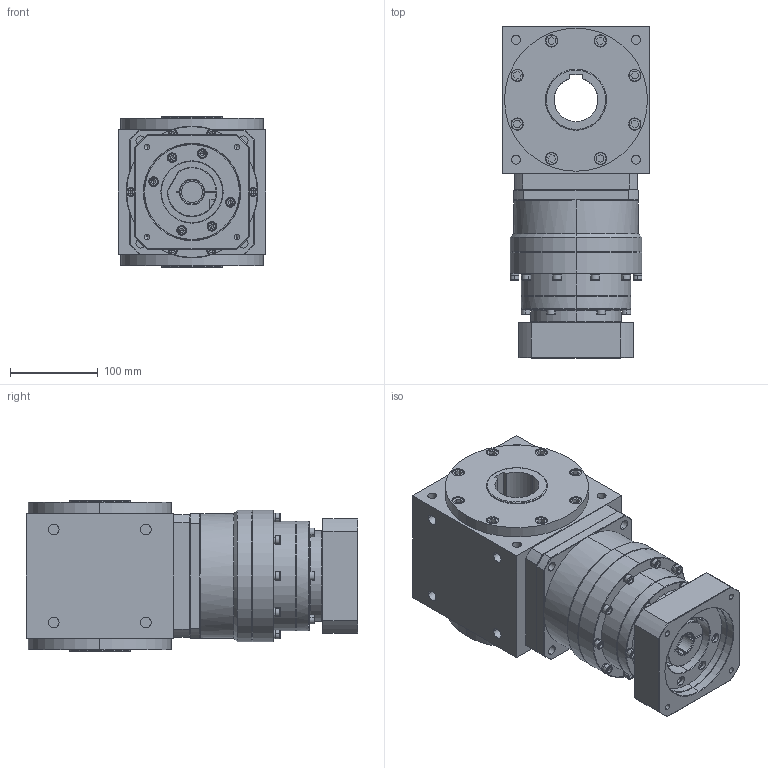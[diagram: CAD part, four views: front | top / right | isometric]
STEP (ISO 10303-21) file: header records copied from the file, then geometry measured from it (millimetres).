
FILE_DESCRIPTION (( 'STEP AP203' ), '1' );
FILE_NAME ('AAW165AS-L2-CR 24-110-145-M8.STEP', '2024-12-24T07:49:04', ( '' ), ( '' ), 'SwSTEP 2.0', 'SolidWorks 2021', '' );
FILE_SCHEMA (( 'CONFIG_CONTROL_DESIGN' ));
Length unit declared in the file: millimetre
Products named in the file (3): AAW165AS-L2-CR 24-110-145-M8; AAW165AS-CR; KS142L2-110-24-62-M8-145俋倛芞
Assembly tree (2 placements, depth 2):
  AAW165AS-L2-CR 24-110-145-M8
    AAW165AS-CR
    KS142L2-110-24-62-M8-145俋倛芞
Bounding box: 168 x 378 x 172 mm (x, y, z)
Volume: 7136795.8 mm3; surface area: 515134.6 mm2
Topology: 52 solids, 52 shells, 1503 faces, 3538 edges, 2207 vertices
Faces by surface type: plane 733, cylinder 511, cone 209, bspline 46, torus 4
Entity records: 45075 total; most frequent: CARTESIAN_POINT 10162, DIRECTION 7570, ORIENTED_EDGE 6912, EDGE_CURVE 3456, AXIS2_PLACEMENT_3D 2901, VERTEX_POINT 2207, VECTOR 1768, LINE 1768
